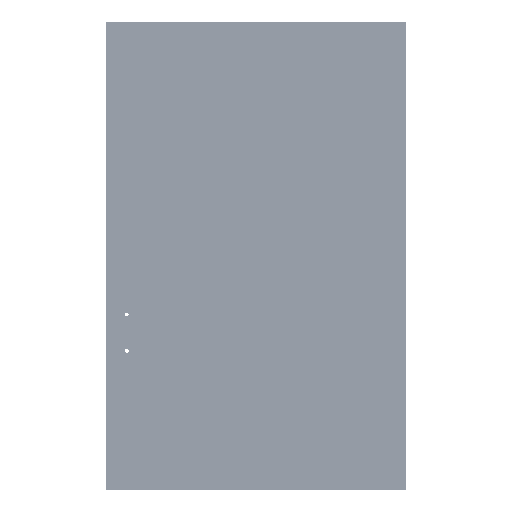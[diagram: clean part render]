
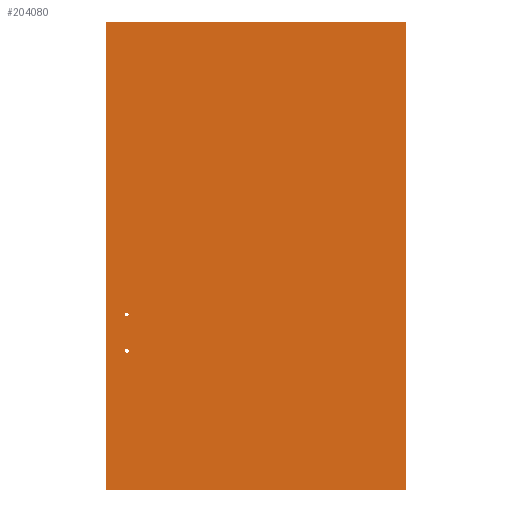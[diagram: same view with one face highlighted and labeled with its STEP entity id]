
A CAD part, left-side view. The second image highlights one B-rep face of the part: STEP entity #204080.
In plain terms, the highlighted planar face has unit normal (-1, 0, 0).
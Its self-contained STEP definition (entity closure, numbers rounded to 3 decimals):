
#98157 = EDGE_CURVE ( 'NONE', #98249, #98251, #135046, .T. ) ;
#98249 = VERTEX_POINT ( 'NONE', #135246 ) ;
#98251 = VERTEX_POINT ( 'NONE', #135244 ) ;
#98766 = EDGE_CURVE ( 'NONE', #98776, #98857, #136392, .T. ) ;
#98776 = VERTEX_POINT ( 'NONE', #136372 ) ;
#98857 = VERTEX_POINT ( 'NONE', #136486 ) ;
#109873 = DIRECTION ( 'NONE',  ( 0., 0., -1. ) ) ;
#109874 = VECTOR ( 'NONE', #109873, 39.37 ) ;
#109878 = CARTESIAN_POINT ( 'NONE',  ( -24.64, -16.53, 12.89 ) ) ;
#109880 = LINE ( 'NONE', #109878, #109874 ) ;
#109894 = DIRECTION ( 'NONE',  ( 0., 0., 1. ) ) ;
#109896 = VECTOR ( 'NONE', #109894, 39.37 ) ;
#109898 = CARTESIAN_POINT ( 'NONE',  ( -24.64, 0., -12.89 ) ) ;
#109901 = LINE ( 'NONE', #109898, #109896 ) ;
#109985 = DIRECTION ( 'NONE',  ( 0., 0., 1. ) ) ;
#109987 = DIRECTION ( 'NONE',  ( 1., 0., 0. ) ) ;
#109989 = CARTESIAN_POINT ( 'NONE',  ( -24.64, -1.15, -3.22 ) ) ;
#109992 = AXIS2_PLACEMENT_3D ( 'NONE', #109989, #109987, #109985 ) ;
#109994 = CIRCLE ( 'NONE', #109992, 0.105 ) ;
#110102 = DIRECTION ( 'NONE',  ( 0., 0., 1. ) ) ;
#110104 = DIRECTION ( 'NONE',  ( 1., 0., 0. ) ) ;
#110105 = CARTESIAN_POINT ( 'NONE',  ( -24.64, -1.15, -5.22 ) ) ;
#110106 = AXIS2_PLACEMENT_3D ( 'NONE', #110105, #110104, #110102 ) ;
#110107 = CIRCLE ( 'NONE', #110106, 0.105 ) ;
#110343 = DIRECTION ( 'NONE',  ( 0., 0., 1. ) ) ;
#110345 = DIRECTION ( 'NONE',  ( -1., 0., 0. ) ) ;
#110346 = CARTESIAN_POINT ( 'NONE',  ( -24.64, -72.626, -12.89 ) ) ;
#110348 = AXIS2_PLACEMENT_3D ( 'NONE', #110346, #110345, #110343 ) ;
#110350 = PLANE ( 'NONE',  #110348 ) ;
#110355 = FACE_BOUND ( 'NONE', #203898, .T. ) ;
#110356 = FACE_OUTER_BOUND ( 'NONE', #204200, .T. ) ;
#110359 = FACE_BOUND ( 'NONE', #204081, .T. ) ;
#110372 = CARTESIAN_POINT ( 'NONE',  ( -24.64, -16.53, -12.89 ) ) ;
#110374 = CARTESIAN_POINT ( 'NONE',  ( -24.64, -16.53, 12.89 ) ) ;
#110376 = DIRECTION ( 'NONE',  ( 0., 1., 0. ) ) ;
#110378 = VECTOR ( 'NONE', #110376, 39.37 ) ;
#110379 = CARTESIAN_POINT ( 'NONE',  ( -24.64, -72.626, -12.89 ) ) ;
#110381 = LINE ( 'NONE', #110379, #110378 ) ;
#110441 = CARTESIAN_POINT ( 'NONE',  ( -24.64, 0., -12.89 ) ) ;
#110457 = CARTESIAN_POINT ( 'NONE',  ( -24.64, 0., 12.89 ) ) ;
#110461 = DIRECTION ( 'NONE',  ( 0., 1., 0. ) ) ;
#110463 = VECTOR ( 'NONE', #110461, 39.37 ) ;
#110465 = CARTESIAN_POINT ( 'NONE',  ( -24.64, -72.626, 12.89 ) ) ;
#110466 = LINE ( 'NONE', #110465, #110463 ) ;
#135039 = DIRECTION ( 'NONE',  ( 0., 0., 1. ) ) ;
#135041 = DIRECTION ( 'NONE',  ( 1., 0., 0. ) ) ;
#135043 = CARTESIAN_POINT ( 'NONE',  ( -24.64, -1.15, -5.22 ) ) ;
#135045 = AXIS2_PLACEMENT_3D ( 'NONE', #135043, #135041, #135039 ) ;
#135046 = CIRCLE ( 'NONE', #135045, 0.105 ) ;
#135244 = CARTESIAN_POINT ( 'NONE',  ( -24.64, -1.15, -5.325 ) ) ;
#135246 = CARTESIAN_POINT ( 'NONE',  ( -24.64, -1.15, -5.115 ) ) ;
#136372 = CARTESIAN_POINT ( 'NONE',  ( -24.64, -1.15, -3.115 ) ) ;
#136385 = DIRECTION ( 'NONE',  ( 0., 0., 1. ) ) ;
#136387 = DIRECTION ( 'NONE',  ( 1., 0., 0. ) ) ;
#136389 = CARTESIAN_POINT ( 'NONE',  ( -24.64, -1.15, -3.22 ) ) ;
#136391 = AXIS2_PLACEMENT_3D ( 'NONE', #136389, #136387, #136385 ) ;
#136392 = CIRCLE ( 'NONE', #136391, 0.105 ) ;
#136486 = CARTESIAN_POINT ( 'NONE',  ( -24.64, -1.15, -3.325 ) ) ;
#203894 = EDGE_CURVE ( 'NONE', #204152, #204135, #109901, .T. ) ;
#203898 = EDGE_LOOP ( 'NONE', ( #204015, #203937 ) ) ;
#203914 = ORIENTED_EDGE ( 'NONE', *, *, #203919, .F. ) ;
#203919 = EDGE_CURVE ( 'NONE', #204039, #204053, #109880, .T. ) ;
#203926 = EDGE_CURVE ( 'NONE', #98857, #98776, #109994, .T. ) ;
#203928 = ORIENTED_EDGE ( 'NONE', *, *, #98766, .T. ) ;
#203931 = EDGE_CURVE ( 'NONE', #98251, #98249, #110107, .T. ) ;
#203937 = ORIENTED_EDGE ( 'NONE', *, *, #98157, .T. ) ;
#203985 = ORIENTED_EDGE ( 'NONE', *, *, #204126, .T. ) ;
#203996 = ORIENTED_EDGE ( 'NONE', *, *, #203926, .T. ) ;
#204015 = ORIENTED_EDGE ( 'NONE', *, *, #203931, .T. ) ;
#204033 = EDGE_CURVE ( 'NONE', #204053, #204152, #110381, .T. ) ;
#204039 = VERTEX_POINT ( 'NONE', #110374 ) ;
#204048 = ORIENTED_EDGE ( 'NONE', *, *, #204033, .F. ) ;
#204053 = VERTEX_POINT ( 'NONE', #110372 ) ;
#204062 = ORIENTED_EDGE ( 'NONE', *, *, #203894, .F. ) ;
#204080 = ADVANCED_FACE ( 'NONE', ( #110359, #110356, #110355 ), #110350, .T. ) ;
#204081 = EDGE_LOOP ( 'NONE', ( #203996, #203928 ) ) ;
#204126 = EDGE_CURVE ( 'NONE', #204039, #204135, #110466, .T. ) ;
#204135 = VERTEX_POINT ( 'NONE', #110457 ) ;
#204152 = VERTEX_POINT ( 'NONE', #110441 ) ;
#204200 = EDGE_LOOP ( 'NONE', ( #204048, #203914, #203985, #204062 ) ) ;
